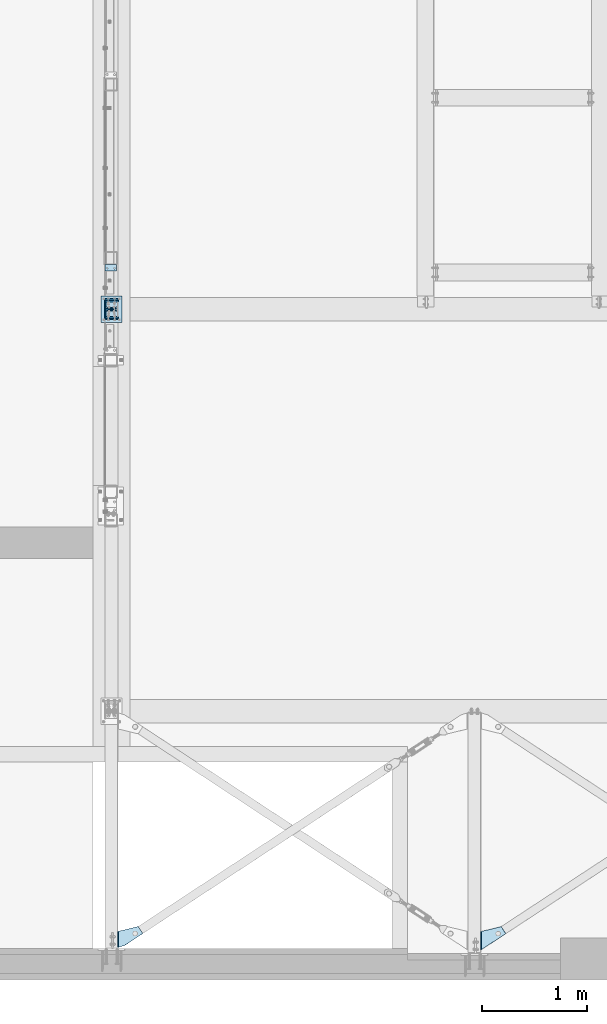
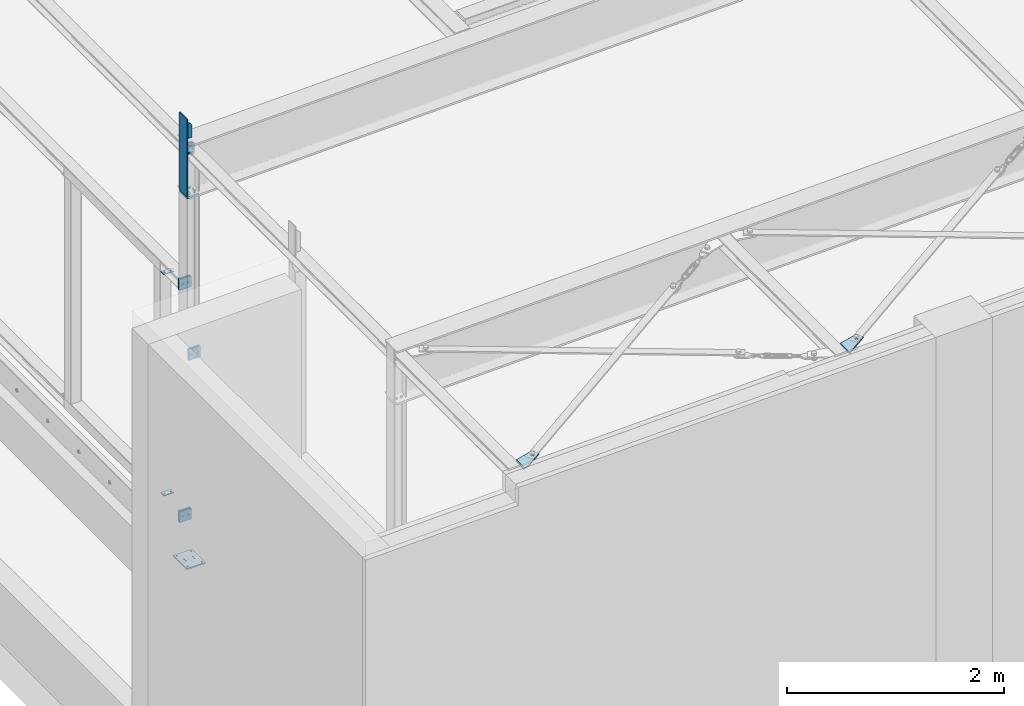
# One storey, part 34 of 476: 16 plates, 63 openings.
"""IFC2X3 building model written with IfcOpenShell, lengths in millimetres."""

from ifc_helpers import new_model, entity, si_unit, converted_unit, point, frame, frame_2d, origin, origin_with_axes, origin_2d_with_axis, place, context, project, spatial, polyline, circle_curve, line_curve, trimmed, segment, composite_curve, circle, outline, extrude, material, layer, layer_set, element, save


model = new_model("IFC2X3")

# Units and contexts
model_context = context("Model", 3, precision=1e-09, world=origin_with_axes())
ifc_project = project(units=[si_unit("LENGTHUNIT", "METRE", prefix="MILLI"), si_unit("AREAUNIT", "SQUARE_METRE"), si_unit("VOLUMEUNIT", "CUBIC_METRE"), converted_unit("PLANEANGLEUNIT", "DEGREE", entity("IfcPlaneAngleMeasure", 0.01745329), si_unit("PLANEANGLEUNIT", "RADIAN"), dimensions=[0, 0, 0, 0, 0, 0, 0])], contexts=[model_context])

# Site, building, storey
site_placement = place(None, origin_with_axes())
site = spatial("IfcSite", under=ifc_project, at=site_placement, Name="mKR Teilneubau & Sanierung BA1 - Ostfildern", CompositionType="ELEMENT")
building_placement = place(site_placement, origin_with_axes())
building = spatial("IfcBuilding", under=site, at=building_placement, Name="Struktur 1", CompositionType="ELEMENT")
storey_placement = place(building_placement, origin_with_axes())
storey = spatial("IfcBuildingStorey", under=building, at=storey_placement, Name="Default Storey", CompositionType="ELEMENT", Elevation=0.0)

# Plate, openings
ifc_material = material(Name="S235JR")
ifc_layer_1 = layer(ifc_material, 15.0)
ifc_layer_set_1 = layer_set([ifc_layer_1], Name="S235JR")
plate_1_placement = place(None, frame((11673.865415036, -23320.388789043, 5319.841898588), z_axis=(0.030004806, 0.0, -0.999549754), x_axis=(0.971475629, 0.23533949, 0.029162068)))
plate_1 = element("IfcPlate", 1, at=plate_1_placement, inside=storey, material=ifc_layer_set_1, Name="-", ObjectType="-", context=model_context, shape_type="SweptSolid", body=[
    extrude(outline(polyline([(0.0, 0.0), (200.924912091, 0.0), (227.827566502, 75.338578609), (-41.531266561, 171.523929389), (0.0, 0.0)])), origin_with_axes(), (0.0, 0.0, 1.0), 15.0),
])
opening_1_placement = place(plate_1_placement, frame((-41.531266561, 171.523929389, 0.0), z_axis=(0.235330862, -0.971915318, 0.0), x_axis=(0.971915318, 0.235330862, 0.0)))
element("IfcOpeningElement", 2, at=opening_1_placement, cuts=plate_1, ObjectType="Opening", context=model_context, shape_type="SweptSolid", body=[
    extrude(outline(polyline([(0.0, 0.0), (8.0, 0.0), (0.0, 8.0), (0.0, 0.0)])), origin(), (0.0, 0.0, 1.0), 178.43837142),
])
opening_2_placement = place(plate_1_placement, frame((161.283162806, 43.753733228, 15.499797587), z_axis=(1.4266e-05, 3.454e-06, 1.0), x_axis=(1.0, 0.0, -1.4266e-05)))
element("IfcOpeningElement", 3, at=opening_2_placement, cuts=plate_1, ObjectType="Opening", context=model_context, shape_type="SweptSolid", body=[
    extrude(circle(Radius=14.501, at=frame_2d((-3.412657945, 14.093713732), x_axis=(1.0, 0.0))), origin(), (0.0, 0.0, -1.0), 16.000000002),
])

plate_2_placement = place(None, frame((8223.86432871, -23469.31640625, 5216.150365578), z_axis=(-0.030019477, 0.0, 0.999549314), x_axis=(0.999549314, 0.0, 0.030019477)))
plate_2 = element("IfcPlate", 4, at=plate_2_placement, inside=storey, material=ifc_layer_set_1, Name="-", ObjectType="-", context=model_context, shape_type="SweptSolid", body=[
    extrude(outline(polyline([(0.0, 0.0), (40.371139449, 0.0), (239.157976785, 130.393742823), (195.281580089, 197.285566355), (1e-09, 150.0), (0.0, 0.0)])), origin_with_axes(), (0.0, 0.0, -1.0), 15.0),
])
opening_3_placement = place(plate_2_placement, frame((0.0, -0.001, 0.0), z_axis=(0.0, 1.0, 0.0), x_axis=(1.0, 0.0, 0.0)))
element("IfcOpeningElement", 5, at=opening_3_placement, cuts=plate_2, ObjectType="Opening", context=model_context, shape_type="SweptSolid", body=[
    extrude(outline(polyline([(0.0, 0.0), (8.0, 0.0), (0.0, 8.0), (0.0, 0.0)])), origin(), (0.0, 0.0, 1.0), 151.959123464),
])
opening_4_placement = place(plate_2_placement, frame((40.371139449, 0.0, 0.01), z_axis=(0.0, 0.0, 1.0), x_axis=(0.83616389, 0.548479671, 0.0)))
element("IfcOpeningElement", 6, at=opening_4_placement, cuts=plate_2, ObjectType="Opening", context=model_context, shape_type="SweptSolid", body=[
    extrude(outline(composite_curve([segment(trimmed(line_curve((0.0, 0.0), (1.0, 0.0), 29.87095402), [point((0.0, 0.0))], [point((29.87095402, 0.0))], True, "CARTESIAN"), True, "CONTINUOUS"), segment(trimmed(circle_curve(frame_2d((29.87095402, 100.0), x_axis=(-1.0, 0.0)), 100.0), [point((29.87095402, 0.0))], [point((-24.9770131, 16.383611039))], False, "CARTESIAN"), True, "CONTINUOUS"), segment(trimmed(line_curve((-24.9770131, 16.383611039), (0.83616389, -0.548479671), 29.87095402), [point((-24.9770131, 16.383611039))], [point((0.0, 0.0))], True, "CARTESIAN"), True, "CONTINUOUS")], self_intersect=False)), origin(), (0.0, 0.0, -1.0), 15.02),
])
opening_5_placement = place(plate_2_placement, frame((167.050213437, 145.431465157, -15.5), z_axis=(0.0, 0.0, -1.0), x_axis=(-1.0, 0.0, 0.0)))
element("IfcOpeningElement", 7, at=opening_5_placement, cuts=plate_2, ObjectType="Opening", context=model_context, shape_type="SweptSolid", body=[
    extrude(circle(Radius=14.501, at=frame_2d((0.0, -14.501), x_axis=(1.0, 0.0))), origin(), (0.0, 0.0, -1.0), 16.0),
])

ifc_layer_2 = layer(ifc_material, 10.0)
ifc_layer_set_2 = layer_set([ifc_layer_2], Name="S235JR")
plate_3_placement = place(None, frame((8215.108804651, -17060.316467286, 3539.999982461), z_axis=(0.0, 0.0, 1.0), x_axis=(0.0, 1.0, 0.0)))
plate_3 = element("IfcPlate", 8, at=plate_3_placement, inside=storey, material=ifc_layer_set_2, Name="Endplate", ObjectType="Endplate", context=model_context, shape_type="SweptSolid", body=[
    extrude(outline(polyline([(20.0, 2.5), (80.0, 2.5), (80.0, 109.5), (20.0, 109.5), (20.0, 2.5)])), origin_with_axes(), (0.0, 0.0, -1.0), 10.0),
])
opening_6_placement = place(plate_3_placement, frame((38.499, 21.0, -10.5), z_axis=(0.0, 0.0, -1.0), x_axis=(-1.0, 0.0, 0.0)))
element("IfcOpeningElement", 9, at=opening_6_placement, cuts=plate_3, ObjectType="Opening", context=model_context, shape_type="SweptSolid", body=[
    extrude(circle(Radius=6.501, at=frame_2d((-6.501, 0.0), x_axis=(1.0, 0.0))), origin(), (0.0, 0.0, -1.0), 11.0),
])
opening_7_placement = place(plate_3_placement, frame((38.499, 91.0, -10.5), z_axis=(0.0, 0.0, -1.0), x_axis=(-1.0, 0.0, 0.0)))
element("IfcOpeningElement", 10, at=opening_7_placement, cuts=plate_3, ObjectType="Opening", context=model_context, shape_type="SweptSolid", body=[
    extrude(circle(Radius=6.501, at=frame_2d((-6.501, 0.0), x_axis=(1.0, 0.0))), origin(), (0.0, 0.0, -1.0), 11.0),
])

plate_4_placement = place(None, frame((8215.108804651, -17060.316467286, 1040.0), z_axis=(0.0, 0.0, 1.0), x_axis=(0.0, 1.0, 0.0)))
plate_4 = element("IfcPlate", 11, at=plate_4_placement, inside=storey, material=ifc_layer_set_2, Name="Endplate", ObjectType="Endplate", context=model_context, shape_type="SweptSolid", body=[
    extrude(outline(polyline([(20.0, 2.5), (80.0, 2.5), (80.0, 109.5), (20.0, 109.5), (20.0, 2.5)])), origin_with_axes(), (0.0, 0.0, 1.0), 10.0),
])
opening_8_placement = place(plate_4_placement, frame((38.499, 21.0, -0.5), z_axis=(0.0, 0.0, -1.0), x_axis=(-1.0, 0.0, 0.0)))
element("IfcOpeningElement", 12, at=opening_8_placement, cuts=plate_4, ObjectType="Opening", context=model_context, shape_type="SweptSolid", body=[
    extrude(circle(Radius=6.501, at=frame_2d((-6.501, 0.0), x_axis=(1.0, 0.0))), origin(), (0.0, 0.0, -1.0), 11.0),
])
opening_9_placement = place(plate_4_placement, frame((38.499, 91.0, -0.5), z_axis=(0.0, 0.0, -1.0), x_axis=(-1.0, 0.0, 0.0)))
element("IfcOpeningElement", 13, at=opening_9_placement, cuts=plate_4, ObjectType="Opening", context=model_context, shape_type="SweptSolid", body=[
    extrude(circle(Radius=6.501, at=frame_2d((-6.501, 0.0), x_axis=(1.0, 0.0))), origin(), (0.0, 0.0, -1.0), 11.0),
])

plate_5_placement = place(None, frame((8165.608780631, -17305.67387897, 3597.0), z_axis=(0.0, -1.0, 0.0), x_axis=(0.0, 0.0, -1.0)))
plate_5 = element("IfcPlate", 14, at=plate_5_placement, inside=storey, material=ifc_layer_set_1, Name="Endplate#1", ObjectType="Endplate#1", context=model_context, shape_type="SweptSolid", body=[
    extrude(outline(polyline([(-62.0, -62.0), (62.0, -62.0), (62.0, 62.0), (-62.0, 62.0), (-62.0, -62.0)])), origin_with_axes(), (0.0, 0.0, 1.0), 15.0),
])
opening_10_placement = place(plate_5_placement, frame((37.0, -14.5, 15.5), z_axis=(0.0, 0.0, -1.0), x_axis=(1.0, 0.0, 0.0)))
element("IfcOpeningElement", 15, at=opening_10_placement, cuts=plate_5, ObjectType="Opening", context=model_context, shape_type="SweptSolid", body=[
    extrude(circle(Radius=6.001, at=origin_2d_with_axis()), origin(), (0.0, 0.0, 1.0), 16.0),
])
opening_11_placement = place(plate_5_placement, frame((-37.0, -14.5, 15.5), z_axis=(0.0, 0.0, -1.0), x_axis=(1.0, 0.0, 0.0)))
element("IfcOpeningElement", 16, at=opening_11_placement, cuts=plate_5, ObjectType="Opening", context=model_context, shape_type="SweptSolid", body=[
    extrude(circle(Radius=6.001, at=origin_2d_with_axis()), origin(), (0.0, 0.0, 1.0), 16.0),
])
opening_12_placement = place(plate_5_placement, frame((-37.0, 14.5, 15.5), z_axis=(0.0, 0.0, -1.0), x_axis=(1.0, 0.0, 0.0)))
element("IfcOpeningElement", 17, at=opening_12_placement, cuts=plate_5, ObjectType="Opening", context=model_context, shape_type="SweptSolid", body=[
    extrude(circle(Radius=6.001, at=origin_2d_with_axis()), origin(), (0.0, 0.0, 1.0), 16.0),
])
opening_13_placement = place(plate_5_placement, frame((37.0, 14.5, 15.5), z_axis=(0.0, 0.0, -1.0), x_axis=(1.0, 0.0, 0.0)))
element("IfcOpeningElement", 18, at=opening_13_placement, cuts=plate_5, ObjectType="Opening", context=model_context, shape_type="SweptSolid", body=[
    extrude(circle(Radius=6.001, at=origin_2d_with_axis()), origin(), (0.0, 0.0, 1.0), 16.0),
])
opening_14_placement = place(plate_5_placement, frame((0.0, 30.0, 15.5), z_axis=(0.0, 0.0, -1.0), x_axis=(-1.0, 0.0, 0.0)))
element("IfcOpeningElement", 19, at=opening_14_placement, cuts=plate_5, ObjectType="Opening", context=model_context, shape_type="SweptSolid", body=[
    extrude(circle(Radius=7.001, at=origin_2d_with_axis()), origin(), (0.0, 0.0, 1.0), 16.0),
])
opening_15_placement = place(plate_5_placement, frame((0.0, -30.0, 15.5), z_axis=(0.0, 0.0, -1.0), x_axis=(0.0, -1.0, 0.0)))
element("IfcOpeningElement", 20, at=opening_15_placement, cuts=plate_5, ObjectType="Opening", context=model_context, shape_type="SweptSolid", body=[
    extrude(circle(Radius=7.001, at=origin_2d_with_axis()), origin(), (0.0, 0.0, 1.0), 16.0),
])

plate_6_placement = place(None, frame((8165.608764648, -17335.67387897, 3597.0), z_axis=(0.0, 1.0, 0.0), x_axis=(1.0, 0.0, 0.0)))
plate_6 = element("IfcPlate", 21, at=plate_6_placement, inside=storey, material=ifc_layer_set_1, Name="T-plate", ObjectType="T-plate", context=model_context, shape_type="SweptSolid", body=[
    extrude(outline(polyline([(-62.0, -62.0), (62.0, -62.0), (62.0, 62.0), (-62.0, 62.0), (-62.0, -62.0)])), origin_with_axes(), (0.0, 0.0, 1.0), 15.0),
])
opening_16_placement = place(plate_6_placement, frame((-29.999984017, 0.0, -0.5), z_axis=(0.0, 0.0, 1.0), x_axis=(-1.0, 0.0, 0.0)))
element("IfcOpeningElement", 22, at=opening_16_placement, cuts=plate_6, ObjectType="Opening", context=model_context, shape_type="SweptSolid", body=[
    extrude(circle(Radius=7.001, at=origin_2d_with_axis()), origin(), (0.0, 0.0, 1.0), 16.0),
])
opening_17_placement = place(plate_6_placement, frame((30.000015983, 0.0, -0.5), z_axis=(0.0, 0.0, 1.0), x_axis=(0.0, -1.0, 0.0)))
element("IfcOpeningElement", 23, at=opening_17_placement, cuts=plate_6, ObjectType="Opening", context=model_context, shape_type="SweptSolid", body=[
    extrude(circle(Radius=7.001, at=origin_2d_with_axis()), origin(), (0.0, 0.0, 1.0), 16.0),
])

plate_7_placement = place(None, frame((8165.608780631, -17305.67387897, 983.0), z_axis=(0.0, -1.0, 0.0), x_axis=(0.0, 0.0, -1.0)))
plate_7 = element("IfcPlate", 24, at=plate_7_placement, inside=storey, material=ifc_layer_set_1, Name="Endplate#1", ObjectType="Endplate#1", context=model_context, shape_type="SweptSolid", body=[
    extrude(outline(polyline([(-62.0, -62.0), (62.0, -62.0), (62.0, 62.0), (-62.0, 62.0), (-62.0, -62.0)])), origin_with_axes(), (0.0, 0.0, 1.0), 15.0),
])
opening_18_placement = place(plate_7_placement, frame((37.0, -14.5, 15.5), z_axis=(0.0, 0.0, -1.0), x_axis=(1.0, 0.0, 0.0)))
element("IfcOpeningElement", 25, at=opening_18_placement, cuts=plate_7, ObjectType="Opening", context=model_context, shape_type="SweptSolid", body=[
    extrude(circle(Radius=6.001, at=origin_2d_with_axis()), origin(), (0.0, 0.0, 1.0), 16.0),
])
opening_19_placement = place(plate_7_placement, frame((-37.0, -14.5, 15.5), z_axis=(0.0, 0.0, -1.0), x_axis=(1.0, 0.0, 0.0)))
element("IfcOpeningElement", 26, at=opening_19_placement, cuts=plate_7, ObjectType="Opening", context=model_context, shape_type="SweptSolid", body=[
    extrude(circle(Radius=6.001, at=origin_2d_with_axis()), origin(), (0.0, 0.0, 1.0), 16.0),
])
opening_20_placement = place(plate_7_placement, frame((-37.0, 14.5, 15.5), z_axis=(0.0, 0.0, -1.0), x_axis=(1.0, 0.0, 0.0)))
element("IfcOpeningElement", 27, at=opening_20_placement, cuts=plate_7, ObjectType="Opening", context=model_context, shape_type="SweptSolid", body=[
    extrude(circle(Radius=6.001, at=origin_2d_with_axis()), origin(), (0.0, 0.0, 1.0), 16.0),
])
opening_21_placement = place(plate_7_placement, frame((37.0, 14.5, 15.5), z_axis=(0.0, 0.0, -1.0), x_axis=(1.0, 0.0, 0.0)))
element("IfcOpeningElement", 28, at=opening_21_placement, cuts=plate_7, ObjectType="Opening", context=model_context, shape_type="SweptSolid", body=[
    extrude(circle(Radius=6.001, at=origin_2d_with_axis()), origin(), (0.0, 0.0, 1.0), 16.0),
])
opening_22_placement = place(plate_7_placement, frame((0.0, -30.0, 15.5), z_axis=(0.0, 0.0, -1.0), x_axis=(0.0, -1.0, 0.0)))
element("IfcOpeningElement", 29, at=opening_22_placement, cuts=plate_7, ObjectType="Opening", context=model_context, shape_type="SweptSolid", body=[
    extrude(circle(Radius=7.001, at=origin_2d_with_axis()), origin(), (0.0, 0.0, 1.0), 16.0),
])
opening_23_placement = place(plate_7_placement, frame((0.0, 30.0, 15.5), z_axis=(0.0, 0.0, -1.0), x_axis=(-1.0, 0.0, 0.0)))
element("IfcOpeningElement", 30, at=opening_23_placement, cuts=plate_7, ObjectType="Opening", context=model_context, shape_type="SweptSolid", body=[
    extrude(circle(Radius=7.001, at=origin_2d_with_axis()), origin(), (0.0, 0.0, 1.0), 16.0),
])

plate_8_placement = place(None, frame((8165.608764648, -17335.67387897, 983.0), z_axis=(0.0, 1.0, 0.0), x_axis=(1.0, 0.0, 0.0)))
plate_8 = element("IfcPlate", 31, at=plate_8_placement, inside=storey, material=ifc_layer_set_1, Name="T-plate", ObjectType="T-plate", context=model_context, shape_type="SweptSolid", body=[
    extrude(outline(polyline([(-62.0, -62.0), (62.0, -62.0), (62.0, 62.0), (-62.0, 62.0), (-62.0, -62.0)])), origin_with_axes(), (0.0, 0.0, 1.0), 15.0),
])
opening_24_placement = place(plate_8_placement, frame((30.000015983, 0.0, -0.5), z_axis=(0.0, 0.0, 1.0), x_axis=(0.0, -1.0, 0.0)))
element("IfcOpeningElement", 32, at=opening_24_placement, cuts=plate_8, ObjectType="Opening", context=model_context, shape_type="SweptSolid", body=[
    extrude(circle(Radius=7.001, at=origin_2d_with_axis()), origin(), (0.0, 0.0, 1.0), 16.0),
])
opening_25_placement = place(plate_8_placement, frame((-29.999984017, 0.0, -0.5), z_axis=(0.0, 0.0, 1.0), x_axis=(-1.0, 0.0, 0.0)))
element("IfcOpeningElement", 33, at=opening_25_placement, cuts=plate_8, ObjectType="Opening", context=model_context, shape_type="SweptSolid", body=[
    extrude(circle(Radius=7.001, at=origin_2d_with_axis()), origin(), (0.0, 0.0, 1.0), 16.0),
])

plate_9_placement = place(None, frame((8189.108764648, -17400.67387897, 5472.548796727), z_axis=(0.0, -1.0, 0.0), x_axis=(-1.0, 0.0, 0.0)))
plate_9 = element("IfcPlate", 34, at=plate_9_placement, inside=storey, material=ifc_layer_set_2, Name="-", ObjectType="-", context=model_context, shape_type="SweptSolid", body=[
    extrude(outline(polyline([(0.0, 0.0), (80.0, 0.0), (80.0, 200.0), (0.0, 197.595559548), (0.0, 0.0)])), origin_with_axes(), (0.0, 0.0, 1.0), 10.0),
])
opening_26_placement = place(plate_9_placement, frame((0.0, 0.0, -0.01), z_axis=(0.0, 0.0, 1.0), x_axis=(1.0, 0.0, 0.0)))
element("IfcOpeningElement", 35, at=opening_26_placement, cuts=plate_9, ObjectType="Opening", context=model_context, shape_type="SweptSolid", body=[
    extrude(outline(polyline([(0.0, 0.0), (50.0, 0.0), (0.0, 50.0), (0.0, 0.0)])), origin(), (0.0, 0.0, 1.0), 10.02),
])
opening_27_placement = place(plate_9_placement, frame((0.0, 0.0, -0.01), z_axis=(0.0, 0.0, 1.0), x_axis=(1.0, 0.0, 0.0)))
element("IfcOpeningElement", 36, at=opening_27_placement, cuts=plate_9, ObjectType="Opening", context=model_context, shape_type="SweptSolid", body=[
    extrude(outline(polyline([(80.0, 200.0), (60.009027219, 199.399161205), (80.0, 180.0), (80.0, 200.0)])), origin(), (0.0, 0.0, 1.0), 10.02),
])

plate_10_placement = place(None, frame((8265.608764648, -17280.67387897, 540.0), z_axis=(0.0, 0.0, -1.0), x_axis=(0.0, -1.0, 0.0)))
plate_10 = element("IfcPlate", 37, at=plate_10_placement, inside=storey, material=ifc_layer_set_1, Name="Baseplate", ObjectType="Baseplate", context=model_context, shape_type="SweptSolid", body=[
    extrude(outline(polyline([(0.0, 0.0), (250.0, 0.0), (250.0, 200.0), (0.0, 200.0), (0.0, 0.0)])), origin_with_axes(), (0.0, 0.0, 1.0), 15.0),
])
opening_28_placement = place(plate_10_placement, frame((110.25, 146.0, 15.5), z_axis=(0.0, 0.0, -1.0), x_axis=(0.0, -1.0, 0.0)))
element("IfcOpeningElement", 38, at=opening_28_placement, cuts=plate_10, ObjectType="Opening", context=model_context, shape_type="SweptSolid", body=[
    extrude(circle(Radius=6.001, at=origin_2d_with_axis()), origin(), (0.0, 0.0, 1.0), 16.0),
])
opening_29_placement = place(plate_10_placement, frame((110.25, 54.0, 15.5), z_axis=(0.0, 0.0, -1.0), x_axis=(0.0, -1.0, 0.0)))
element("IfcOpeningElement", 39, at=opening_29_placement, cuts=plate_10, ObjectType="Opening", context=model_context, shape_type="SweptSolid", body=[
    extrude(circle(Radius=6.001, at=origin_2d_with_axis()), origin(), (0.0, 0.0, 1.0), 16.0),
])
opening_30_placement = place(plate_10_placement, frame((139.75, 54.0, 15.5), z_axis=(0.0, 0.0, -1.0), x_axis=(0.0, -1.0, 0.0)))
element("IfcOpeningElement", 40, at=opening_30_placement, cuts=plate_10, ObjectType="Opening", context=model_context, shape_type="SweptSolid", body=[
    extrude(circle(Radius=6.001, at=origin_2d_with_axis()), origin(), (0.0, 0.0, 1.0), 16.0),
])
opening_31_placement = place(plate_10_placement, frame((139.75, 146.0, 15.5), z_axis=(0.0, 0.0, -1.0), x_axis=(0.0, -1.0, 0.0)))
element("IfcOpeningElement", 41, at=opening_31_placement, cuts=plate_10, ObjectType="Opening", context=model_context, shape_type="SweptSolid", body=[
    extrude(circle(Radius=6.001, at=origin_2d_with_axis()), origin(), (0.0, 0.0, 1.0), 16.0),
])
opening_32_placement = place(plate_10_placement, frame((125.0, 100.0, 15.5), z_axis=(0.0, 0.0, -1.0), x_axis=(1.0, 0.0, 0.0)))
element("IfcOpeningElement", 42, at=opening_32_placement, cuts=plate_10, ObjectType="Opening", context=model_context, shape_type="SweptSolid", body=[
    extrude(circle(Radius=6.001, at=frame_2d((100.0, 75.0), x_axis=(1.0, 0.0))), origin(), (0.0, 0.0, 1.0), 16.0),
])
opening_33_placement = place(plate_10_placement, frame((125.0, 100.0, 15.5), z_axis=(0.0, 0.0, -1.0), x_axis=(1.0, 0.0, 0.0)))
element("IfcOpeningElement", 43, at=opening_33_placement, cuts=plate_10, ObjectType="Opening", context=model_context, shape_type="SweptSolid", body=[
    extrude(circle(Radius=6.001, at=frame_2d((-100.0, 75.0), x_axis=(1.0, 0.0))), origin(), (0.0, 0.0, 1.0), 16.0),
])
opening_34_placement = place(plate_10_placement, frame((125.0, 100.0, 15.5), z_axis=(0.0, 0.0, -1.0), x_axis=(1.0, 0.0, 0.0)))
element("IfcOpeningElement", 44, at=opening_34_placement, cuts=plate_10, ObjectType="Opening", context=model_context, shape_type="SweptSolid", body=[
    extrude(circle(Radius=6.001, at=frame_2d((100.0, -75.0), x_axis=(1.0, 0.0))), origin(), (0.0, 0.0, 1.0), 16.0),
])
opening_35_placement = place(plate_10_placement, frame((125.0, 100.0, 15.5), z_axis=(0.0, 0.0, -1.0), x_axis=(1.0, 0.0, 0.0)))
element("IfcOpeningElement", 45, at=opening_35_placement, cuts=plate_10, ObjectType="Opening", context=model_context, shape_type="SweptSolid", body=[
    extrude(circle(Radius=6.001, at=frame_2d((-100.0, -75.0), x_axis=(1.0, 0.0))), origin(), (0.0, 0.0, 1.0), 16.0),
])

plate_11_placement = place(None, frame((8165.608780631, -17505.67387897, 2912.000017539), z_axis=(0.0, 1.0, 0.0), x_axis=(0.0, 0.0, -1.0)))
plate_11 = element("IfcPlate", 46, at=plate_11_placement, inside=storey, material=ifc_layer_set_1, Name="Endplate#1", ObjectType="Endplate#1", context=model_context, shape_type="SweptSolid", body=[
    extrude(outline(polyline([(-62.0, -62.0), (62.0, -62.0), (62.0, 62.0), (-62.0, 62.0), (-62.0, -62.0)])), origin_with_axes(), (0.0, 0.0, 1.0), 15.0),
])
opening_36_placement = place(plate_11_placement, frame((37.0, 14.5, 15.5), z_axis=(0.0, 0.0, -1.0), x_axis=(-1.0, 0.0, 0.0)))
element("IfcOpeningElement", 47, at=opening_36_placement, cuts=plate_11, ObjectType="Opening", context=model_context, shape_type="SweptSolid", body=[
    extrude(circle(Radius=6.001, at=origin_2d_with_axis()), origin(), (0.0, 0.0, 1.0), 16.0),
])
opening_37_placement = place(plate_11_placement, frame((-37.0, 14.5, 15.5), z_axis=(0.0, 0.0, -1.0), x_axis=(-1.0, 0.0, 0.0)))
element("IfcOpeningElement", 48, at=opening_37_placement, cuts=plate_11, ObjectType="Opening", context=model_context, shape_type="SweptSolid", body=[
    extrude(circle(Radius=6.001, at=origin_2d_with_axis()), origin(), (0.0, 0.0, 1.0), 16.0),
])
opening_38_placement = place(plate_11_placement, frame((-37.0, -14.5, 15.5), z_axis=(0.0, 0.0, -1.0), x_axis=(-1.0, 0.0, 0.0)))
element("IfcOpeningElement", 49, at=opening_38_placement, cuts=plate_11, ObjectType="Opening", context=model_context, shape_type="SweptSolid", body=[
    extrude(circle(Radius=6.001, at=origin_2d_with_axis()), origin(), (0.0, 0.0, 1.0), 16.0),
])
opening_39_placement = place(plate_11_placement, frame((37.0, -14.5, 15.5), z_axis=(0.0, 0.0, -1.0), x_axis=(-1.0, 0.0, 0.0)))
element("IfcOpeningElement", 50, at=opening_39_placement, cuts=plate_11, ObjectType="Opening", context=model_context, shape_type="SweptSolid", body=[
    extrude(circle(Radius=6.001, at=origin_2d_with_axis()), origin(), (0.0, 0.0, 1.0), 16.0),
])
opening_40_placement = place(plate_11_placement, frame((0.0, -30.0, 15.5), z_axis=(0.0, 0.0, -1.0), x_axis=(0.0, -1.0, 0.0)))
element("IfcOpeningElement", 51, at=opening_40_placement, cuts=plate_11, ObjectType="Opening", context=model_context, shape_type="SweptSolid", body=[
    extrude(circle(Radius=7.001, at=origin_2d_with_axis()), origin(), (0.0, 0.0, 1.0), 16.0),
])
opening_41_placement = place(plate_11_placement, frame((0.0, 30.0, 15.5), z_axis=(0.0, 0.0, -1.0), x_axis=(-1.0, 0.0, 0.0)))
element("IfcOpeningElement", 52, at=opening_41_placement, cuts=plate_11, ObjectType="Opening", context=model_context, shape_type="SweptSolid", body=[
    extrude(circle(Radius=7.001, at=origin_2d_with_axis()), origin(), (0.0, 0.0, 1.0), 16.0),
])

plate_12_placement = place(None, frame((8165.608764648, -17475.67387897, 2912.000017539), z_axis=(0.0, -1.0, 0.0), x_axis=(-1.0, 0.0, 0.0)))
plate_12 = element("IfcPlate", 53, at=plate_12_placement, inside=storey, material=ifc_layer_set_1, Name="T-plate", ObjectType="T-plate", context=model_context, shape_type="SweptSolid", body=[
    extrude(outline(polyline([(-62.0, -62.0), (62.0, -62.0), (62.0, 62.0), (-62.0, 62.0), (-62.0, -62.0)])), origin_with_axes(), (0.0, 0.0, 1.0), 15.0),
])
opening_42_placement = place(plate_12_placement, frame((29.999984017, 0.0, -0.5), z_axis=(0.0, 0.0, 1.0), x_axis=(0.0, -1.0, 0.0)))
element("IfcOpeningElement", 54, at=opening_42_placement, cuts=plate_12, ObjectType="Opening", context=model_context, shape_type="SweptSolid", body=[
    extrude(circle(Radius=7.001, at=origin_2d_with_axis()), origin(), (0.0, 0.0, 1.0), 16.0),
])
opening_43_placement = place(plate_12_placement, frame((-30.000015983, 0.0, -0.5), z_axis=(0.0, 0.0, 1.0), x_axis=(-1.0, 0.0, 0.0)))
element("IfcOpeningElement", 55, at=opening_43_placement, cuts=plate_12, ObjectType="Opening", context=model_context, shape_type="SweptSolid", body=[
    extrude(circle(Radius=7.001, at=origin_2d_with_axis()), origin(), (0.0, 0.0, 1.0), 16.0),
])

# Plate
plate_13_placement = place(None, frame((8109.108764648, -17335.67387897, 4677.27785786), z_axis=(-1.0, 0.0, 0.0), x_axis=(0.0, -1.0, 0.0)))
element("IfcPlate", 56, at=plate_13_placement, inside=storey, material=ifc_layer_set_2, Name="Coverplate", ObjectType="Coverplate", context=model_context, shape_type="SweptSolid", body=[
    extrude(outline(polyline([(0.0, 0.0), (140.0, 0.0), (140.0, 870.270938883), (0.0, 870.270938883), (0.0, 0.0)])), origin_with_axes(), (0.0, 0.0, 1.0), 10.0),
])

# Plate, openings
ifc_layer_3 = layer(ifc_material, 20.0)
ifc_layer_set_3 = layer_set([ifc_layer_3], Name="S235JR")
plate_14_placement = place(None, frame((8104.106507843, -17335.67387897, 4652.118481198), z_axis=(-0.030041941, 0.0, 0.999548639), x_axis=(0.0, -1.0, 0.0)))
plate_14 = element("IfcPlate", 57, at=plate_14_placement, inside=storey, material=ifc_layer_set_3, Name="Endplate", ObjectType="Endplate", context=model_context, shape_type="SweptSolid", body=[
    extrude(outline(polyline([(0.0, 0.0), (140.0, 0.0), (140.0, 123.060058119), (0.0, 123.060058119), (0.0, 0.0)])), origin_with_axes(), (0.0, 0.0, 1.0), 20.0),
])
opening_44_placement = place(plate_14_placement, frame((55.25, 15.503838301, 20.5), z_axis=(0.0, 0.0, -1.0), x_axis=(0.0, -1.0, 0.0)))
element("IfcOpeningElement", 58, at=opening_44_placement, cuts=plate_14, ObjectType="Opening", context=model_context, shape_type="SweptSolid", body=[
    extrude(circle(Radius=6.001, at=origin_2d_with_axis()), origin(), (0.0, 0.0, 1.0), 21.0),
])
opening_45_placement = place(plate_14_placement, frame((55.25, 107.556219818, 20.5), z_axis=(0.0, 0.0, -1.0), x_axis=(0.0, -1.0, 0.0)))
element("IfcOpeningElement", 59, at=opening_45_placement, cuts=plate_14, ObjectType="Opening", context=model_context, shape_type="SweptSolid", body=[
    extrude(circle(Radius=6.001, at=origin_2d_with_axis()), origin(), (0.0, 0.0, 1.0), 21.0),
])
opening_46_placement = place(plate_14_placement, frame((84.75, 107.556219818, 20.5), z_axis=(0.0, 0.0, -1.0), x_axis=(0.0, -1.0, 0.0)))
element("IfcOpeningElement", 60, at=opening_46_placement, cuts=plate_14, ObjectType="Opening", context=model_context, shape_type="SweptSolid", body=[
    extrude(circle(Radius=6.001, at=origin_2d_with_axis()), origin(), (0.0, 0.0, 1.0), 21.0),
])
opening_47_placement = place(plate_14_placement, frame((84.75, 15.503838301, 20.5), z_axis=(0.0, 0.0, -1.0), x_axis=(0.0, -1.0, 0.0)))
element("IfcOpeningElement", 61, at=opening_47_placement, cuts=plate_14, ObjectType="Opening", context=model_context, shape_type="SweptSolid", body=[
    extrude(circle(Radius=6.001, at=origin_2d_with_axis()), origin(), (0.0, 0.0, 1.0), 21.0),
])
opening_48_placement = place(plate_14_placement, frame((17.999, 89.03, -0.5), z_axis=(0.0, 0.0, -1.0), x_axis=(-1.0, 0.0, 0.0)))
element("IfcOpeningElement", 62, at=opening_48_placement, cuts=plate_14, ObjectType="Opening", context=model_context, shape_type="SweptSolid", body=[
    extrude(circle(Radius=7.001, at=frame_2d((-7.001, 0.0), x_axis=(1.0, 0.0))), origin(), (0.0, 0.0, -1.0), 21.0),
])
opening_49_placement = place(plate_14_placement, frame((107.999, 34.03, -0.5), z_axis=(0.0, 0.0, -1.0), x_axis=(-1.0, 0.0, 0.0)))
element("IfcOpeningElement", 63, at=opening_49_placement, cuts=plate_14, ObjectType="Opening", context=model_context, shape_type="SweptSolid", body=[
    extrude(circle(Radius=7.001, at=frame_2d((-7.001, 0.0), x_axis=(1.0, 0.0))), origin(), (0.0, 0.0, -1.0), 21.0),
])
opening_50_placement = place(plate_14_placement, frame((107.999, 89.03, -0.5), z_axis=(0.0, 0.0, -1.0), x_axis=(-1.0, 0.0, 0.0)))
element("IfcOpeningElement", 64, at=opening_50_placement, cuts=plate_14, ObjectType="Opening", context=model_context, shape_type="SweptSolid", body=[
    extrude(circle(Radius=7.001, at=frame_2d((-7.001, 0.0), x_axis=(1.0, 0.0))), origin(), (0.0, 0.0, -1.0), 21.0),
])
opening_51_placement = place(plate_14_placement, frame((17.999, 34.03, -0.5), z_axis=(0.0, 0.0, -1.0), x_axis=(-1.0, 0.0, 0.0)))
element("IfcOpeningElement", 65, at=opening_51_placement, cuts=plate_14, ObjectType="Opening", context=model_context, shape_type="SweptSolid", body=[
    extrude(circle(Radius=7.001, at=frame_2d((-7.001, 0.0), x_axis=(1.0, 0.0))), origin(), (0.0, 0.0, -1.0), 21.0),
])

ifc_layer_4 = layer(ifc_material, 12.0)
ifc_layer_set_4 = layer_set([ifc_layer_4], Name="S235JR")
plate_15_placement = place(None, frame((8118.766491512, -17399.67387897, 5217.841340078), z_axis=(0.0, 1.0, 0.0), x_axis=(0.999548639, 0.0, 0.030041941)))
plate_15 = element("IfcPlate", 66, at=plate_15_placement, inside=storey, material=ifc_layer_set_4, Name="Endplate", ObjectType="Endplate", context=model_context, shape_type="SweptSolid", body=[
    extrude(outline(polyline([(0.0, 0.0), (90.0, 0.0), (90.0, 124.0), (0.0, 124.0), (0.0, 0.0)])), origin_with_axes(), (0.0, 0.0, 1.0), 12.0),
])
opening_52_placement = place(plate_15_placement, frame((70.0, 62.0, -0.5), z_axis=(0.0, 0.0, 1.0), x_axis=(0.0, -1.0, 0.0)))
element("IfcOpeningElement", 67, at=opening_52_placement, cuts=plate_15, ObjectType="Opening", context=model_context, shape_type="SweptSolid", body=[
    extrude(circle(Radius=7.001, at=origin_2d_with_axis()), origin(), (0.0, 0.0, 1.0), 13.0),
])
opening_53_placement = place(plate_15_placement, frame((20.0, 62.0, -0.5), z_axis=(0.0, 0.0, 1.0), x_axis=(0.0, -1.0, 0.0)))
element("IfcOpeningElement", 68, at=opening_53_placement, cuts=plate_15, ObjectType="Opening", context=model_context, shape_type="SweptSolid", body=[
    extrude(circle(Radius=7.001, at=origin_2d_with_axis()), origin(), (0.0, 0.0, 1.0), 13.0),
])
opening_54_placement = place(plate_15_placement, frame((30.5, 99.0, -0.5), z_axis=(0.0, 0.0, 1.0), x_axis=(0.0, 1.0, 0.0)))
element("IfcOpeningElement", 69, at=opening_54_placement, cuts=plate_15, ObjectType="Opening", context=model_context, shape_type="SweptSolid", body=[
    extrude(circle(Radius=6.001, at=origin_2d_with_axis()), origin(), (0.0, 0.0, 1.0), 13.0),
])
opening_55_placement = place(plate_15_placement, frame((30.5, 25.0, -0.5), z_axis=(0.0, 0.0, 1.0), x_axis=(0.0, 1.0, 0.0)))
element("IfcOpeningElement", 70, at=opening_55_placement, cuts=plate_15, ObjectType="Opening", context=model_context, shape_type="SweptSolid", body=[
    extrude(circle(Radius=6.001, at=origin_2d_with_axis()), origin(), (0.0, 0.0, 1.0), 13.0),
])
opening_56_placement = place(plate_15_placement, frame((59.5, 25.0, -0.5), z_axis=(0.0, 0.0, 1.0), x_axis=(0.0, 1.0, 0.0)))
element("IfcOpeningElement", 71, at=opening_56_placement, cuts=plate_15, ObjectType="Opening", context=model_context, shape_type="SweptSolid", body=[
    extrude(circle(Radius=6.001, at=origin_2d_with_axis()), origin(), (0.0, 0.0, 1.0), 13.0),
])
opening_57_placement = place(plate_15_placement, frame((59.5, 99.0, -0.5), z_axis=(0.0, 0.0, 1.0), x_axis=(0.0, 1.0, 0.0)))
element("IfcOpeningElement", 72, at=opening_57_placement, cuts=plate_15, ObjectType="Opening", context=model_context, shape_type="SweptSolid", body=[
    extrude(circle(Radius=6.001, at=origin_2d_with_axis()), origin(), (0.0, 0.0, 1.0), 13.0),
])

plate_16_placement = place(None, frame((8208.725869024, -17411.67387897, 5220.545114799), z_axis=(0.0, -1.0, 0.0), x_axis=(-0.999548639, 0.0, -0.030041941)))
plate_16 = element("IfcPlate", 73, at=plate_16_placement, inside=storey, material=ifc_layer_set_4, Name="Endplate", ObjectType="Endplate", context=model_context, shape_type="SweptSolid", body=[
    extrude(outline(polyline([(0.0, 0.0), (90.0, 0.0), (90.0, 124.0), (0.0, 124.0), (0.0, 0.0)])), origin_with_axes(), (0.0, 0.0, 1.0), 12.0),
])
opening_58_placement = place(plate_16_placement, frame((20.0, 62.0, 12.5), z_axis=(0.0, 0.0, -1.0), x_axis=(0.0, -1.0, 0.0)))
element("IfcOpeningElement", 74, at=opening_58_placement, cuts=plate_16, ObjectType="Opening", context=model_context, shape_type="SweptSolid", body=[
    extrude(circle(Radius=7.001, at=origin_2d_with_axis()), origin(), (0.0, 0.0, 1.0), 13.0),
])
opening_59_placement = place(plate_16_placement, frame((70.0, 62.0, 12.5), z_axis=(0.0, 0.0, -1.0), x_axis=(0.0, -1.0, 0.0)))
element("IfcOpeningElement", 75, at=opening_59_placement, cuts=plate_16, ObjectType="Opening", context=model_context, shape_type="SweptSolid", body=[
    extrude(circle(Radius=7.001, at=origin_2d_with_axis()), origin(), (0.0, 0.0, 1.0), 13.0),
])
opening_60_placement = place(plate_16_placement, frame((59.5, 99.0, -0.5), z_axis=(0.0, 0.0, 1.0), x_axis=(0.0, -1.0, 0.0)))
element("IfcOpeningElement", 76, at=opening_60_placement, cuts=plate_16, ObjectType="Opening", context=model_context, shape_type="SweptSolid", body=[
    extrude(circle(Radius=6.001, at=origin_2d_with_axis()), origin(), (0.0, 0.0, 1.0), 13.0),
])
opening_61_placement = place(plate_16_placement, frame((59.5, 25.0, -0.5), z_axis=(0.0, 0.0, 1.0), x_axis=(0.0, -1.0, 0.0)))
element("IfcOpeningElement", 77, at=opening_61_placement, cuts=plate_16, ObjectType="Opening", context=model_context, shape_type="SweptSolid", body=[
    extrude(circle(Radius=6.001, at=origin_2d_with_axis()), origin(), (0.0, 0.0, 1.0), 13.0),
])
opening_62_placement = place(plate_16_placement, frame((30.5, 25.0, -0.5), z_axis=(0.0, 0.0, 1.0), x_axis=(0.0, -1.0, 0.0)))
element("IfcOpeningElement", 78, at=opening_62_placement, cuts=plate_16, ObjectType="Opening", context=model_context, shape_type="SweptSolid", body=[
    extrude(circle(Radius=6.001, at=origin_2d_with_axis()), origin(), (0.0, 0.0, 1.0), 13.0),
])
opening_63_placement = place(plate_16_placement, frame((30.5, 99.0, -0.5), z_axis=(0.0, 0.0, 1.0), x_axis=(0.0, -1.0, 0.0)))
element("IfcOpeningElement", 79, at=opening_63_placement, cuts=plate_16, ObjectType="Opening", context=model_context, shape_type="SweptSolid", body=[
    extrude(circle(Radius=6.001, at=origin_2d_with_axis()), origin(), (0.0, 0.0, 1.0), 13.0),
])

save(model, "model.ifc")
